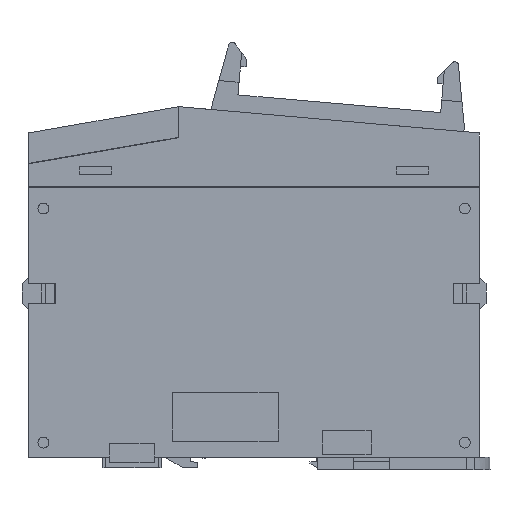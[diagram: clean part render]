
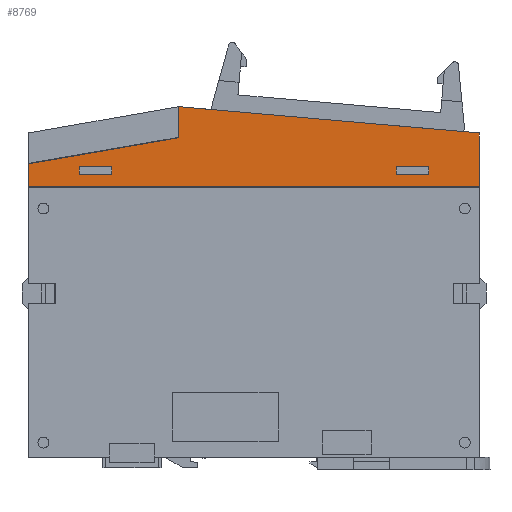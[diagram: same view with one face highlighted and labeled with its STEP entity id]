
A CAD part, left-side view. The second image highlights one B-rep face of the part: STEP entity #8769.
In plain terms, the highlighted planar face has unit normal (-1, 0, 0).
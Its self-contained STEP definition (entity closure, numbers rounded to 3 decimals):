
#116 = CARTESIAN_POINT ( 'NONE',  ( -13.3, -39.5, 78.46 ) ) ;
#765 = EDGE_CURVE ( 'NONE', #18301, #9164, #20133, .T. ) ;
#781 = CARTESIAN_POINT ( 'NONE',  ( -13.3, 39.5, 78.46 ) ) ;
#1166 = CARTESIAN_POINT ( 'NONE',  ( -13.3, 20.996, 97.305 ) ) ;
#1315 = DIRECTION ( 'NONE',  ( 0., 1., 0. ) ) ;
#1473 = ORIENTED_EDGE ( 'NONE', *, *, #19112, .F. ) ;
#1860 = ORIENTED_EDGE ( 'NONE', *, *, #765, .F. ) ;
#1863 = LINE ( 'NONE', #24136, #16243 ) ;
#2040 = VECTOR ( 'NONE', #22224, 1000. ) ;
#2308 = LINE ( 'NONE', #10494, #22548 ) ;
#2544 = CARTESIAN_POINT ( 'NONE',  ( -13.3, -62.5, 97.5 ) ) ;
#2871 = DIRECTION ( 'NONE',  ( 0., 0., 1. ) ) ;
#2990 = EDGE_CURVE ( 'NONE', #21103, #6108, #19209, .T. ) ;
#3126 = ORIENTED_EDGE ( 'NONE', *, *, #5060, .F. ) ;
#3632 = CARTESIAN_POINT ( 'NONE',  ( -13.3, -39.5, 80.66 ) ) ;
#3716 = ORIENTED_EDGE ( 'NONE', *, *, #21879, .F. ) ;
#3748 = VERTEX_POINT ( 'NONE', #17510 ) ;
#3791 = FACE_BOUND ( 'NONE', #14163, .T. ) ;
#4204 = VERTEX_POINT ( 'NONE', #19280 ) ;
#4300 = DIRECTION ( 'NONE',  ( 0., 0., -1. ) ) ;
#4323 = CARTESIAN_POINT ( 'NONE',  ( -13.3, 62.5, 75.05 ) ) ;
#4551 = VECTOR ( 'NONE', #2871, 1000. ) ;
#4632 = ORIENTED_EDGE ( 'NONE', *, *, #13746, .F. ) ;
#4962 = VERTEX_POINT ( 'NONE', #15323 ) ;
#5060 = EDGE_CURVE ( 'NONE', #12748, #3748, #15564, .T. ) ;
#5394 = CARTESIAN_POINT ( 'NONE',  ( -13.3, -62.5, 75.05 ) ) ;
#5516 = CARTESIAN_POINT ( 'NONE',  ( -13.3, 39.5, 78.46 ) ) ;
#6108 = VERTEX_POINT ( 'NONE', #13848 ) ;
#6169 = FACE_OUTER_BOUND ( 'NONE', #12473, .T. ) ;
#6286 = DIRECTION ( 'NONE',  ( 1., 0., 0. ) ) ;
#6631 = VERTEX_POINT ( 'NONE', #16262 ) ;
#6632 = VERTEX_POINT ( 'NONE', #1166 ) ;
#6792 = EDGE_CURVE ( 'NONE', #12971, #6632, #8802, .T. ) ;
#6880 = ORIENTED_EDGE ( 'NONE', *, *, #10723, .F. ) ;
#7243 = VECTOR ( 'NONE', #23522, 1000. ) ;
#7743 = CARTESIAN_POINT ( 'NONE',  ( -13.3, -62.5, 90. ) ) ;
#7843 = DIRECTION ( 'NONE',  ( 0., 0., -1. ) ) ;
#8234 = VECTOR ( 'NONE', #24108, 1000. ) ;
#8238 = DIRECTION ( 'NONE',  ( 0., 0., 1. ) ) ;
#8343 = DIRECTION ( 'NONE',  ( 0., -1., 0. ) ) ;
#8481 = VECTOR ( 'NONE', #13871, 1000. ) ;
#8496 = VECTOR ( 'NONE', #20677, 1000. ) ;
#8769 = ADVANCED_FACE ( 'NONE', ( #3791, #17294, #6169 ), #13553, .F. ) ;
#8802 = LINE ( 'NONE', #14854, #8496 ) ;
#8823 = EDGE_CURVE ( 'NONE', #21743, #9164, #2308, .T. ) ;
#8930 = LINE ( 'NONE', #12304, #4551 ) ;
#9164 = VERTEX_POINT ( 'NONE', #4323 ) ;
#9176 = VERTEX_POINT ( 'NONE', #15467 ) ;
#9286 = DIRECTION ( 'NONE',  ( 0., -1., 0. ) ) ;
#9593 = LINE ( 'NONE', #21892, #15718 ) ;
#10355 = EDGE_CURVE ( 'NONE', #6631, #12748, #12785, .T. ) ;
#10442 = CARTESIAN_POINT ( 'NONE',  ( -13.3, -39.5, 78.46 ) ) ;
#10494 = CARTESIAN_POINT ( 'NONE',  ( -13.3, 62.5, 97.5 ) ) ;
#10723 = EDGE_CURVE ( 'NONE', #6108, #21244, #8930, .T. ) ;
#10876 = ORIENTED_EDGE ( 'NONE', *, *, #10355, .F. ) ;
#11343 = ORIENTED_EDGE ( 'NONE', *, *, #23847, .F. ) ;
#11938 = LINE ( 'NONE', #15688, #16908 ) ;
#12029 = LINE ( 'NONE', #3632, #2040 ) ;
#12135 = EDGE_LOOP ( 'NONE', ( #6880, #17640, #3716, #15833 ) ) ;
#12304 = CARTESIAN_POINT ( 'NONE',  ( -13.3, -48.5, 78.46 ) ) ;
#12473 = EDGE_LOOP ( 'NONE', ( #1473, #4632, #14411, #1860, #11343, #16591 ) ) ;
#12600 = EDGE_CURVE ( 'NONE', #3748, #4204, #9593, .T. ) ;
#12748 = VERTEX_POINT ( 'NONE', #5516 ) ;
#12785 = LINE ( 'NONE', #20589, #17182 ) ;
#12971 = VERTEX_POINT ( 'NONE', #7743 ) ;
#13553 = PLANE ( 'NONE',  #20230 ) ;
#13746 = EDGE_CURVE ( 'NONE', #21743, #9176, #1863, .T. ) ;
#13848 = CARTESIAN_POINT ( 'NONE',  ( -13.3, -48.5, 78.46 ) ) ;
#13871 = DIRECTION ( 'NONE',  ( 0., 0., -1. ) ) ;
#14163 = EDGE_LOOP ( 'NONE', ( #3126, #10876, #22398, #16728 ) ) ;
#14178 = CARTESIAN_POINT ( 'NONE',  ( -13.3, 62.4, 75.05 ) ) ;
#14411 = ORIENTED_EDGE ( 'NONE', *, *, #8823, .T. ) ;
#14854 = CARTESIAN_POINT ( 'NONE',  ( -13.3, -8.289, 94.743 ) ) ;
#15231 = LINE ( 'NONE', #2544, #8481 ) ;
#15323 = CARTESIAN_POINT ( 'NONE',  ( -13.3, -39.5, 80.66 ) ) ;
#15467 = CARTESIAN_POINT ( 'NONE',  ( -13.3, 20.996, 88.668 ) ) ;
#15564 = LINE ( 'NONE', #781, #8234 ) ;
#15688 = CARTESIAN_POINT ( 'NONE',  ( -13.3, 20.996, 97.209 ) ) ;
#15718 = VECTOR ( 'NONE', #1315, 1000. ) ;
#15833 = ORIENTED_EDGE ( 'NONE', *, *, #23631, .F. ) ;
#15919 = DIRECTION ( 'NONE',  ( 0., 0., -1. ) ) ;
#16134 = CARTESIAN_POINT ( 'NONE',  ( -13.3, 48.5, 78.46 ) ) ;
#16243 = VECTOR ( 'NONE', #24058, 1000. ) ;
#16262 = CARTESIAN_POINT ( 'NONE',  ( -13.3, 48.5, 78.46 ) ) ;
#16591 = ORIENTED_EDGE ( 'NONE', *, *, #6792, .T. ) ;
#16728 = ORIENTED_EDGE ( 'NONE', *, *, #12600, .F. ) ;
#16908 = VECTOR ( 'NONE', #8238, 1000. ) ;
#17182 = VECTOR ( 'NONE', #9286, 1000. ) ;
#17294 = FACE_BOUND ( 'NONE', #12135, .T. ) ;
#17411 = VECTOR ( 'NONE', #7843, 1000. ) ;
#17510 = CARTESIAN_POINT ( 'NONE',  ( -13.3, 39.5, 80.66 ) ) ;
#17640 = ORIENTED_EDGE ( 'NONE', *, *, #2990, .F. ) ;
#17711 = DIRECTION ( 'NONE',  ( 0., 0., -1. ) ) ;
#17995 = EDGE_CURVE ( 'NONE', #4204, #6631, #23887, .T. ) ;
#18301 = VERTEX_POINT ( 'NONE', #5394 ) ;
#18842 = CARTESIAN_POINT ( 'NONE',  ( -13.3, -39.5, 78.46 ) ) ;
#18864 = LINE ( 'NONE', #116, #17411 ) ;
#18918 = VECTOR ( 'NONE', #8343, 1000. ) ;
#18931 = VECTOR ( 'NONE', #17711, 1000. ) ;
#19112 = EDGE_CURVE ( 'NONE', #9176, #6632, #11938, .T. ) ;
#19134 = CARTESIAN_POINT ( 'NONE',  ( -13.3, 62.5, 97.5 ) ) ;
#19209 = LINE ( 'NONE', #10442, #18918 ) ;
#19280 = CARTESIAN_POINT ( 'NONE',  ( -13.3, 48.5, 80.66 ) ) ;
#20133 = LINE ( 'NONE', #14178, #7243 ) ;
#20230 = AXIS2_PLACEMENT_3D ( 'NONE', #19134, #6286, #4300 ) ;
#20527 = CARTESIAN_POINT ( 'NONE',  ( -13.3, 62.5, 81.45 ) ) ;
#20589 = CARTESIAN_POINT ( 'NONE',  ( -13.3, 48.5, 78.46 ) ) ;
#20677 = DIRECTION ( 'NONE',  ( 0., 0.996, 0.087 ) ) ;
#21103 = VERTEX_POINT ( 'NONE', #18842 ) ;
#21244 = VERTEX_POINT ( 'NONE', #23011 ) ;
#21743 = VERTEX_POINT ( 'NONE', #20527 ) ;
#21879 = EDGE_CURVE ( 'NONE', #4962, #21103, #18864, .T. ) ;
#21892 = CARTESIAN_POINT ( 'NONE',  ( -13.3, 48.5, 80.66 ) ) ;
#22224 = DIRECTION ( 'NONE',  ( 0., 1., 0. ) ) ;
#22398 = ORIENTED_EDGE ( 'NONE', *, *, #17995, .F. ) ;
#22548 = VECTOR ( 'NONE', #15919, 1000. ) ;
#23011 = CARTESIAN_POINT ( 'NONE',  ( -13.3, -48.5, 80.66 ) ) ;
#23522 = DIRECTION ( 'NONE',  ( 0., 1., 0. ) ) ;
#23631 = EDGE_CURVE ( 'NONE', #21244, #4962, #12029, .T. ) ;
#23847 = EDGE_CURVE ( 'NONE', #12971, #18301, #15231, .T. ) ;
#23887 = LINE ( 'NONE', #16134, #18931 ) ;
#24058 = DIRECTION ( 'NONE',  ( 0., -0.985, 0.171 ) ) ;
#24108 = DIRECTION ( 'NONE',  ( 0., 0., 1. ) ) ;
#24136 = CARTESIAN_POINT ( 'NONE',  ( -13.3, 20.996, 88.668 ) ) ;
